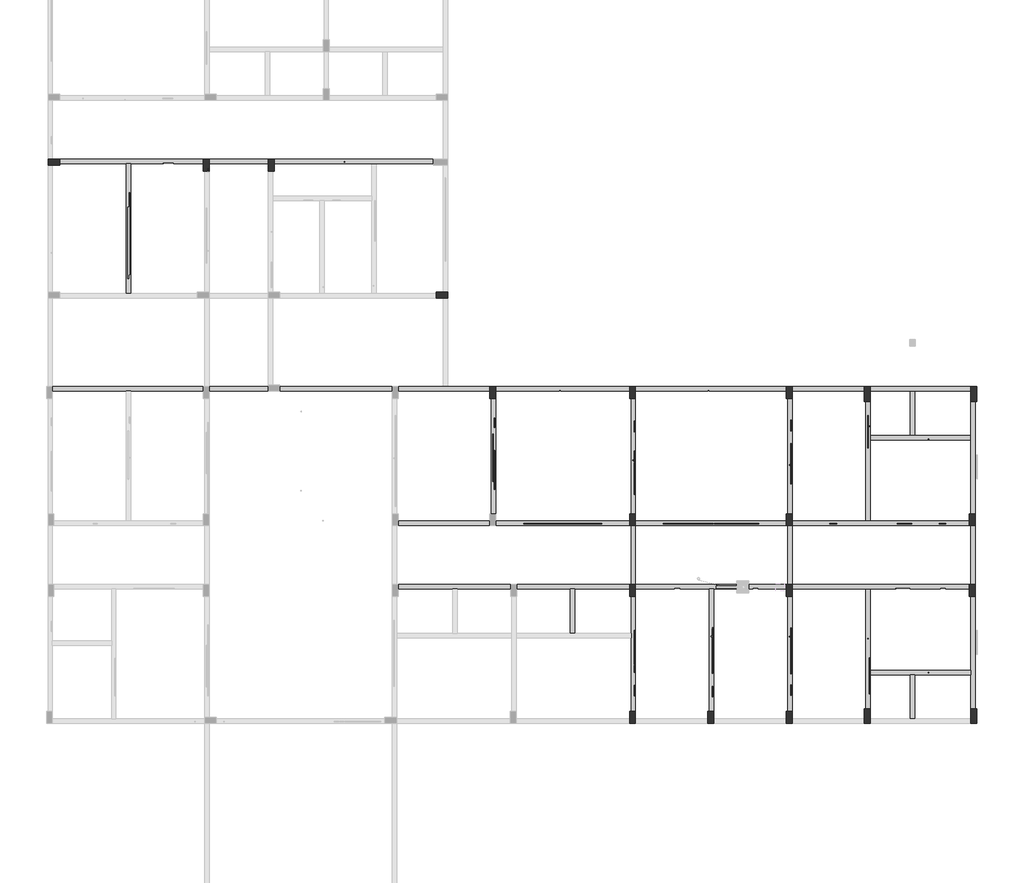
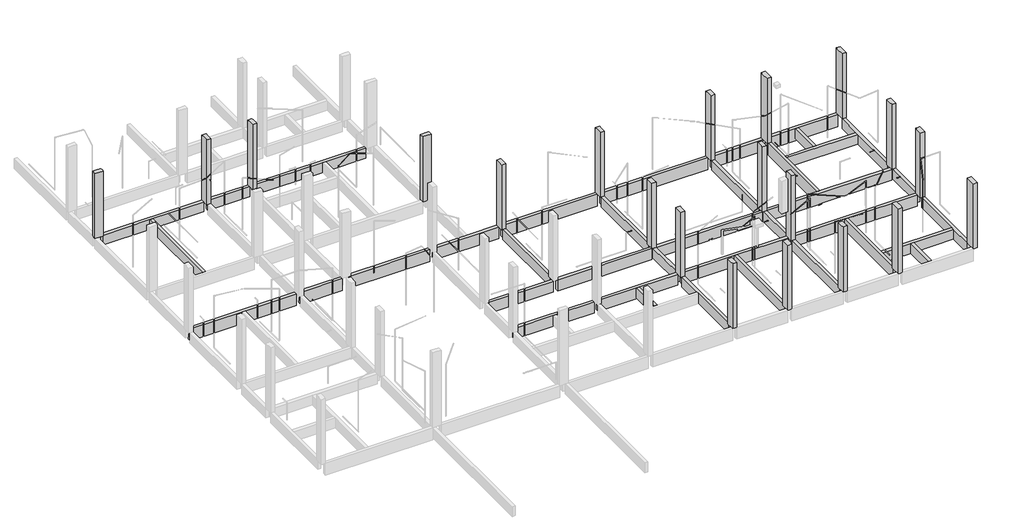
# One storey, part 2 of 4: 20 columns, 17 beams.
"""IFC4 building model written with IfcOpenShell, lengths in millimetres."""

from ifc_helpers import new_model, si_unit, frame, origin, place, context, project, spatial, polyline, outline, extrude, faceted_brep, element, save

model = new_model("IFC4")

# Units and contexts
model_context = context("Model", 3, world=origin())
ifc_project = project(units=[si_unit("LENGTHUNIT", "METRE", prefix="MILLI")], contexts=[model_context])

# Site, building, storey
site = spatial("IfcSite", under=ifc_project)
building = spatial("IfcBuilding", under=site)
storey = spatial("IfcBuildingStorey", under=building, Name="BALDRAME", Elevation=1500.0)

# Beams
placement = place(None, origin())
element("IfcBeam", 1, ObjectType="TQS - Viga retangular : 15,0 x 50,0", at=placement, inside=storey, context=model_context, shape_type="Brep", body=[
    faceted_brep([(7650.0, 19100.0, 1500.0), (7650.0, 18950.0, 1500.0), (10950.0, 18950.0, 1500.0), (11100.0, 18950.0, 1500.0), (13030.0, 18950.0, 1500.0), (13030.0, 19100.0, 1500.0), (7650.0, 18950.0, 1000.0), (10950.0, 18950.0, 1000.0), (11100.0, 18950.0, 1000.0), (13030.0, 18950.0, 1000.0), (7650.0, 19100.0, 1000.0), (13030.0, 19100.0, 1000.0)], [[[0, 1, 2, 3, 4, 5]], [[1, 6, 7, 8, 9, 4, 3, 2]], [[6, 10, 11, 9, 8, 7]], [[10, 0, 5, 11]], [[1, 0, 10, 6]], [[5, 4, 9, 11]]]),
    faceted_brep([(400.0, 18950.0, 1500.0), (400.0, 19100.0, 1500.0), (400.0, 19100.0, 1000.0), (400.0, 18950.0, 1000.0), (5250.0, 19100.0, 1500.0), (5250.0, 18950.0, 1500.0), (5250.0, 18950.0, 1000.0), (5250.0, 19100.0, 1000.0), (2650.0, 18950.0, 1500.0), (2800.0, 18950.0, 1500.0), (2650.0, 18950.0, 1000.0), (2800.0, 18950.0, 1000.0)], [[[0, 1, 2, 3]], [[4, 5, 6, 7]], [[1, 0, 8, 9, 5, 4]], [[0, 3, 10, 11, 6, 5, 9, 8]], [[3, 2, 7, 6, 11, 10]], [[2, 1, 4, 7]]]),
    faceted_brep([(5450.0, 18950.0, 1500.0), (5450.0, 19100.0, 1500.0), (5450.0, 19100.0, 1000.0), (5450.0, 18950.0, 1000.0), (7450.0, 19100.0, 1500.0), (7450.0, 18950.0, 1500.0), (7450.0, 18950.0, 1000.0), (7450.0, 19100.0, 1000.0)], [[[0, 1, 2, 3]], [[4, 5, 6, 7]], [[1, 0, 5, 4]], [[0, 3, 6, 5]], [[3, 2, 7, 6]], [[2, 1, 4, 7]]]),
])
element("IfcBeam", 2, ObjectType="TQS - Viga retangular : 15,0 x 50,0", at=placement, inside=storey, context=model_context, shape_type="Brep", body=[
    faceted_brep([(31380.0, 10900.0, 1500.0), (31230.0, 10900.0, 1500.0), (31230.0, 9750.0, 1500.0), (31230.0, 9600.0, 1500.0), (31230.0, 7100.0, 1500.0), (31380.0, 7100.0, 1500.0), (31380.0, 10900.0, 1000.0), (31380.0, 7100.0, 1000.0), (31230.0, 10900.0, 1000.0), (31230.0, 7100.0, 1000.0), (31230.0, 9600.0, 1000.0), (31230.0, 9750.0, 1000.0)], [[[0, 1, 2, 3, 4, 5]], [[6, 0, 5, 7]], [[8, 6, 7, 9, 10, 11]], [[1, 8, 11, 10, 9, 4, 3, 2]], [[1, 0, 6, 8]], [[5, 4, 9, 7]]]),
    faceted_brep([(31380.0, 500.0, 1500.0), (31230.0, 500.0, 1500.0), (31230.0, 500.0, 1000.0), (31380.0, 500.0, 1000.0), (31230.0, 4300.0, 1500.0), (31380.0, 4300.0, 1500.0), (31380.0, 4300.0, 1000.0), (31230.0, 4300.0, 1000.0), (31230.0, 1800.0, 1500.0), (31230.0, 1650.0, 1500.0), (31230.0, 1650.0, 1000.0), (31230.0, 1800.0, 1000.0)], [[[0, 1, 2, 3]], [[4, 5, 6, 7]], [[1, 0, 5, 4, 8, 9]], [[0, 3, 6, 5]], [[3, 2, 10, 11, 7, 6]], [[2, 1, 9, 8, 4, 7, 11, 10]]]),
    faceted_brep([(31380.0, 4700.0, 1500.0), (31230.0, 4700.0, 1500.0), (31230.0, 4700.0, 1000.0), (31380.0, 4700.0, 1000.0), (31230.0, 6700.0, 1500.0), (31380.0, 6700.0, 1500.0), (31380.0, 6700.0, 1000.0), (31230.0, 6700.0, 1000.0)], [[[0, 1, 2, 3]], [[4, 5, 6, 7]], [[1, 0, 5, 4]], [[0, 3, 6, 5]], [[3, 2, 7, 6]], [[2, 1, 4, 7]]]),
])
element("IfcBeam", 3, ObjectType="TQS - Viga retangular : 15,0 x 50,0", at=placement, inside=storey, context=model_context, shape_type="Brep", body=[
    faceted_brep([(19730.0, 400.0, 1500.0), (19880.0, 400.0, 1500.0), (19880.0, 4300.0, 1500.0), (19730.0, 4300.0, 1500.0), (19730.0, 3050.0, 1500.0), (19730.0, 2900.0, 1500.0), (19880.0, 400.0, 1000.0), (19880.0, 4300.0, 1000.0), (19730.0, 400.0, 1000.0), (19730.0, 2900.0, 1000.0), (19730.0, 3050.0, 1000.0), (19730.0, 4300.0, 1000.0)], [[[0, 1, 2, 3, 4, 5]], [[1, 6, 7, 2]], [[6, 8, 9, 10, 11, 7]], [[8, 0, 5, 4, 3, 11, 10, 9]], [[1, 0, 8, 6]], [[3, 2, 7, 11]]]),
    faceted_brep([(19730.0, 11000.0, 1500.0), (19880.0, 11000.0, 1500.0), (19880.0, 11000.0, 1000.0), (19730.0, 11000.0, 1000.0), (19730.0, 7100.0, 1500.0), (19880.0, 7100.0, 1500.0), (19880.0, 7100.0, 1000.0), (19730.0, 7100.0, 1000.0)], [[[0, 1, 2, 3]], [[1, 0, 4, 5]], [[2, 1, 5, 6]], [[3, 2, 6, 7]], [[0, 3, 7, 4]], [[5, 4, 7, 6]]]),
    faceted_brep([(19880.0, 4700.0, 1500.0), (19730.0, 4700.0, 1500.0), (19730.0, 4700.0, 1000.0), (19880.0, 4700.0, 1000.0), (19730.0, 6700.0, 1500.0), (19880.0, 6700.0, 1500.0), (19880.0, 6700.0, 1000.0), (19730.0, 6700.0, 1000.0)], [[[0, 1, 2, 3]], [[4, 5, 6, 7]], [[1, 0, 5, 4]], [[0, 3, 6, 5]], [[3, 2, 7, 6]], [[2, 1, 4, 7]]]),
])
element("IfcBeam", 4, ObjectType="TQS - Viga retangular : 15,0 x 50,0", at=placement, inside=storey, context=model_context, shape_type="SweptSolid", body=[
    extrude(outline(polyline([(22530.0, 400.0), (22380.0, 400.0), (22380.0, 4550.0), (22530.0, 4550.0), (22530.0, 400.0)])), frame((0.0, 0.0, 1000.0), z_axis=(0.0, 0.0, 1.0), x_axis=(1.0, 0.0, 0.0)), (0.0, 0.0, 1.0), 500.0),
])
element("IfcBeam", 5, ObjectType="TQS - Viga retangular : 15,0 x 50,0", at=placement, inside=storey, context=model_context, shape_type="SweptSolid", body=[
    extrude(outline(polyline([(25180.0, 400.0), (25030.0, 400.0), (25030.0, 4300.0), (25180.0, 4300.0), (25180.0, 400.0)])), frame((0.0, 0.0, 1000.0), z_axis=(0.0, 0.0, 1.0), x_axis=(1.0, 0.0, 0.0)), (0.0, 0.0, 1.0), 500.0),
    extrude(outline(polyline([(25030.0, 11000.0), (25180.0, 11000.0), (25180.0, 7100.0), (25030.0, 7100.0), (25030.0, 11000.0)])), frame((0.0, 0.0, 1000.0), z_axis=(0.0, 0.0, 1.0), x_axis=(1.0, 0.0, 0.0)), (0.0, 0.0, 1.0), 500.0),
    extrude(outline(polyline([(25180.0, 4700.0), (25030.0, 4700.0), (25030.0, 6700.0), (25180.0, 6700.0), (25180.0, 4700.0)])), frame((0.0, 0.0, 1000.0), z_axis=(0.0, 0.0, 1.0), x_axis=(1.0, 0.0, 0.0)), (0.0, 0.0, 1.0), 500.0),
])
element("IfcBeam", 6, ObjectType="TQS - Viga retangular : 15,0 x 50,0", at=placement, inside=storey, context=model_context, shape_type="SweptSolid", body=[
    extrude(outline(polyline([(15000.0, 11000.0), (15150.0, 11000.0), (15150.0, 7100.0), (15000.0, 7100.0), (15000.0, 11000.0)])), frame((0.0, 0.0, 1000.0), z_axis=(0.0, 0.0, 1.0), x_axis=(1.0, 0.0, 0.0)), (0.0, 0.0, 1.0), 500.0),
])
element("IfcBeam", 7, ObjectType="TQS - Viga retangular : 15,0 x 50,0", at=placement, inside=storey, context=model_context, shape_type="SweptSolid", body=[
    extrude(outline(polyline([(17680.0, 4550.0), (17830.0, 4550.0), (17830.0, 3050.0), (17680.0, 3050.0), (17680.0, 4550.0)])), frame((0.0, 0.0, 1000.0), z_axis=(0.0, 0.0, 1.0), x_axis=(1.0, 0.0, 0.0)), (0.0, 0.0, 1.0), 500.0),
])
element("IfcBeam", 8, ObjectType="TQS - Viga retangular : 15,0 x 50,0", at=placement, inside=storey, context=model_context, shape_type="SweptSolid", body=[
    extrude(outline(polyline([(29330.0, 150.0), (29180.0, 150.0), (29180.0, 1650.0), (29330.0, 1650.0), (29330.0, 150.0)])), frame((0.0, 0.0, 1000.0), z_axis=(0.0, 0.0, 1.0), x_axis=(1.0, 0.0, 0.0)), (0.0, 0.0, 1.0), 500.0),
])
element("IfcBeam", 9, ObjectType="TQS - Viga retangular : 15,0 x 50,0", at=placement, inside=storey, context=model_context, shape_type="Brep", body=[
    faceted_brep([(31230.0, 1650.0, 1500.0), (31230.0, 1800.0, 1500.0), (27830.0, 1800.0, 1500.0), (27830.0, 1650.0, 1500.0), (29180.0, 1650.0, 1500.0), (29330.0, 1650.0, 1500.0), (31230.0, 1650.0, 1000.0), (27830.0, 1650.0, 1000.0), (29180.0, 1650.0, 1000.0), (29330.0, 1650.0, 1000.0), (31230.0, 1800.0, 1000.0), (27830.0, 1800.0, 1000.0)], [[[0, 1, 2, 3, 4, 5]], [[6, 0, 5, 4, 3, 7, 8, 9]], [[10, 6, 9, 8, 7, 11]], [[1, 10, 11, 2]], [[1, 0, 6, 10]], [[3, 2, 11, 7]]]),
])
element("IfcBeam", 10, ObjectType="TQS - Viga retangular : 15,0 x 50,0", at=placement, inside=storey, context=model_context, shape_type="SweptSolid", body=[
    extrude(outline(polyline([(2650.0, 18950.0), (2800.0, 18950.0), (2800.0, 14550.0), (2650.0, 14550.0), (2650.0, 18950.0)])), frame((0.0, 0.0, 1000.0), z_axis=(0.0, 0.0, 1.0), x_axis=(1.0, 0.0, 0.0)), (0.0, 0.0, 1.0), 500.0),
])
element("IfcBeam", 11, ObjectType="TQS - Viga retangular : 15,0 x 50,0", at=placement, inside=storey, context=model_context, shape_type="Brep", body=[
    faceted_brep([(31230.0, 9600.0, 1500.0), (31230.0, 9750.0, 1500.0), (29330.0, 9750.0, 1500.0), (29180.0, 9750.0, 1500.0), (27830.0, 9750.0, 1500.0), (27830.0, 9600.0, 1500.0), (31230.0, 9600.0, 1000.0), (27830.0, 9600.0, 1000.0), (31230.0, 9750.0, 1000.0), (27830.0, 9750.0, 1000.0), (29180.0, 9750.0, 1000.0), (29330.0, 9750.0, 1000.0)], [[[0, 1, 2, 3, 4, 5]], [[6, 0, 5, 7]], [[8, 6, 7, 9, 10, 11]], [[1, 8, 11, 10, 9, 4, 3, 2]], [[1, 0, 6, 8]], [[5, 4, 9, 7]]]),
])
element("IfcBeam", 12, ObjectType="TQS - Viga retangular : 15,0 x 50,0", at=placement, inside=storey, context=model_context, shape_type="SweptSolid", body=[
    extrude(outline(polyline([(29180.0, 11250.0), (29330.0, 11250.0), (29330.0, 9750.0), (29180.0, 9750.0), (29180.0, 11250.0)])), frame((0.0, 0.0, 1000.0), z_axis=(0.0, 0.0, 1.0), x_axis=(1.0, 0.0, 0.0)), (0.0, 0.0, 1.0), 500.0),
])
element("IfcBeam", 13, ObjectType="TQS - Viga retangular : 15,0 x 55,0", at=placement, inside=storey, context=model_context, shape_type="Brep", body=[
    faceted_brep([(31180.0, 4550.0, 1500.0), (31180.0, 4700.0, 1500.0), (25180.0, 4700.0, 1500.0), (25180.0, 4550.0, 1500.0), (27680.0, 4550.0, 1500.0), (27830.0, 4550.0, 1500.0), (31180.0, 4550.0, 950.0), (25180.0, 4550.0, 950.0), (27680.0, 4550.0, 950.0), (27830.0, 4550.0, 950.0), (31180.0, 4700.0, 950.0), (25180.0, 4700.0, 950.0)], [[[0, 1, 2, 3, 4, 5]], [[6, 0, 5, 4, 3, 7, 8, 9]], [[10, 6, 9, 8, 7, 11]], [[1, 10, 11, 2]], [[1, 0, 6, 10]], [[3, 2, 11, 7]]]),
    faceted_brep([(11850.0, 4550.0, 1500.0), (11850.0, 4700.0, 1500.0), (11850.0, 4700.0, 950.0), (11850.0, 4550.0, 950.0), (15665.0, 4700.0, 1500.0), (15665.0, 4550.0, 1500.0), (15665.0, 4550.0, 950.0), (15665.0, 4700.0, 950.0), (13700.0, 4550.0, 1500.0), (13850.0, 4550.0, 1500.0)], [[[0, 1, 2, 3]], [[4, 5, 6, 7]], [[1, 0, 8, 9, 5, 4]], [[0, 3, 6, 5, 9, 8]], [[3, 2, 7, 6]], [[2, 1, 4, 7]]]),
    faceted_brep([(15865.0, 4550.0, 1500.0), (15865.0, 4700.0, 1500.0), (15865.0, 4700.0, 950.0), (15865.0, 4550.0, 950.0), (19680.0, 4700.0, 1500.0), (19680.0, 4550.0, 1500.0), (19680.0, 4550.0, 950.0), (19680.0, 4700.0, 950.0), (17680.0, 4550.0, 1500.0), (17830.0, 4550.0, 1500.0)], [[[0, 1, 2, 3]], [[4, 5, 6, 7]], [[1, 0, 8, 9, 5, 4]], [[0, 3, 6, 5, 9, 8]], [[3, 2, 7, 6]], [[2, 1, 4, 7]]]),
    faceted_brep([(19880.0, 4550.0, 1500.0), (19880.0, 4700.0, 1500.0), (19880.0, 4700.0, 950.0), (19880.0, 4550.0, 950.0), (24980.0, 4700.0, 1500.0), (24980.0, 4550.0, 1500.0), (24980.0, 4550.0, 950.0), (24980.0, 4700.0, 950.0), (22380.0, 4550.0, 1500.0), (22530.0, 4550.0, 1500.0)], [[[0, 1, 2, 3]], [[4, 5, 6, 7]], [[1, 0, 8, 9, 5, 4]], [[0, 3, 6, 5, 9, 8]], [[3, 2, 7, 6]], [[2, 1, 4, 7]]]),
])
element("IfcBeam", 14, ObjectType="TQS - Viga retangular : 15,0 x 55,0", at=placement, inside=storey, context=model_context, shape_type="Brep", body=[
    faceted_brep([(31180.0, 6700.0, 1500.0), (31180.0, 6850.0, 1500.0), (27830.0, 6850.0, 1500.0), (27680.0, 6850.0, 1500.0), (25180.0, 6850.0, 1500.0), (25180.0, 6700.0, 1500.0), (31180.0, 6700.0, 950.0), (25180.0, 6700.0, 950.0), (27680.0, 6700.0, 950.0), (27830.0, 6700.0, 950.0), (31180.0, 6850.0, 950.0), (25180.0, 6850.0, 950.0), (27680.0, 6850.0, 950.0), (27830.0, 6850.0, 950.0)], [[[0, 1, 2, 3, 4, 5]], [[6, 0, 5, 7, 8, 9]], [[10, 6, 9, 8, 7, 11, 12, 13]], [[1, 10, 13, 12, 11, 4, 3, 2]], [[1, 0, 6, 10]], [[5, 4, 11, 7]]]),
    faceted_brep([(11850.0, 6700.0, 1500.0), (11850.0, 6850.0, 1500.0), (11850.0, 6850.0, 950.0), (11850.0, 6700.0, 950.0), (14950.0, 6850.0, 1500.0), (14950.0, 6700.0, 1500.0), (14950.0, 6700.0, 950.0), (14950.0, 6850.0, 950.0)], [[[0, 1, 2, 3]], [[4, 5, 6, 7]], [[1, 0, 5, 4]], [[0, 3, 6, 5]], [[3, 2, 7, 6]], [[2, 1, 4, 7]]]),
    faceted_brep([(24980.0, 6850.0, 1500.0), (24980.0, 6700.0, 1500.0), (24980.0, 6700.0, 950.0), (24980.0, 6850.0, 950.0), (19880.0, 6850.0, 1500.0), (19880.0, 6700.0, 1500.0), (19880.0, 6700.0, 950.0), (19880.0, 6850.0, 950.0)], [[[0, 1, 2, 3]], [[1, 0, 4, 5]], [[2, 1, 5, 6]], [[3, 2, 6, 7]], [[0, 3, 7, 4]], [[5, 4, 7, 6]]]),
    faceted_brep([(19680.0, 6850.0, 1500.0), (19680.0, 6700.0, 1500.0), (19680.0, 6700.0, 950.0), (19680.0, 6850.0, 950.0), (15150.0, 6850.0, 1500.0), (15150.0, 6700.0, 1500.0), (15150.0, 6700.0, 950.0), (15150.0, 6850.0, 950.0)], [[[0, 1, 2, 3]], [[1, 0, 4, 5]], [[2, 1, 5, 6]], [[3, 2, 6, 7]], [[0, 3, 7, 4]], [[5, 4, 7, 6]]]),
])
element("IfcBeam", 15, ObjectType="TQS - Viga retangular : 15,0 x 55,0", at=placement, inside=storey, context=model_context, shape_type="Brep", body=[
    faceted_brep([(27680.0, 500.0, 1500.0), (27830.0, 500.0, 1500.0), (27830.0, 1650.0, 1500.0), (27830.0, 1800.0, 1500.0), (27830.0, 4550.0, 1500.0), (27680.0, 4550.0, 1500.0), (27830.0, 500.0, 950.0), (27830.0, 4550.0, 950.0), (27680.0, 500.0, 950.0), (27680.0, 4550.0, 950.0)], [[[0, 1, 2, 3, 4, 5]], [[1, 6, 7, 4, 3, 2]], [[6, 8, 9, 7]], [[8, 0, 5, 9]], [[1, 0, 8, 6]], [[5, 4, 7, 9]]]),
])
element("IfcBeam", 16, ObjectType="TQS - Viga retangular : 15,0 x 60,0", at=placement, inside=storey, context=model_context, shape_type="Brep", body=[
    faceted_brep([(31230.0, 11250.0, 1500.0), (31230.0, 11400.0, 1500.0), (27830.0, 11400.0, 1500.0), (27830.0, 11250.0, 1500.0), (29180.0, 11250.0, 1500.0), (29330.0, 11250.0, 1500.0), (31230.0, 11250.0, 900.0), (27830.0, 11250.0, 900.0), (31230.0, 11400.0, 900.0), (27830.0, 11400.0, 900.0)], [[[0, 1, 2, 3, 4, 5]], [[6, 0, 5, 4, 3, 7]], [[8, 6, 7, 9]], [[1, 8, 9, 2]], [[1, 0, 6, 8]], [[3, 2, 9, 7]]]),
    faceted_brep([(27630.0, 11400.0, 1500.0), (27630.0, 11250.0, 1500.0), (27630.0, 11250.0, 900.0), (27630.0, 11400.0, 900.0), (25180.0, 11400.0, 1500.0), (25180.0, 11250.0, 1500.0), (25180.0, 11250.0, 900.0), (25180.0, 11400.0, 900.0)], [[[0, 1, 2, 3]], [[1, 0, 4, 5]], [[2, 1, 5, 6]], [[3, 2, 6, 7]], [[0, 3, 7, 4]], [[5, 4, 7, 6]]]),
    faceted_brep([(24980.0, 11400.0, 1500.0), (24980.0, 11250.0, 1500.0), (24980.0, 11250.0, 900.0), (24980.0, 11400.0, 900.0), (19880.0, 11400.0, 1500.0), (19880.0, 11250.0, 1500.0), (19880.0, 11250.0, 900.0), (19880.0, 11400.0, 900.0)], [[[0, 1, 2, 3]], [[1, 0, 4, 5]], [[2, 1, 5, 6]], [[3, 2, 6, 7]], [[0, 3, 7, 4]], [[5, 4, 7, 6]]]),
    faceted_brep([(19680.0, 11400.0, 1500.0), (19680.0, 11250.0, 1500.0), (19680.0, 11250.0, 900.0), (19680.0, 11400.0, 900.0), (15150.0, 11400.0, 1500.0), (15150.0, 11250.0, 1500.0), (15150.0, 11250.0, 900.0), (15150.0, 11400.0, 900.0)], [[[0, 1, 2, 3]], [[1, 0, 4, 5]], [[2, 1, 5, 6]], [[3, 2, 6, 7]], [[0, 3, 7, 4]], [[5, 4, 7, 6]]]),
    faceted_brep([(14950.0, 11400.0, 1500.0), (14950.0, 11250.0, 1500.0), (14950.0, 11250.0, 900.0), (14950.0, 11400.0, 900.0), (13530.0, 11400.0, 1500.0), (13380.0, 11400.0, 1500.0), (11850.0, 11400.0, 1500.0), (11850.0, 11250.0, 1500.0), (11850.0, 11250.0, 900.0), (11850.0, 11400.0, 900.0)], [[[0, 1, 2, 3]], [[1, 0, 4, 5, 6, 7]], [[2, 1, 7, 8]], [[3, 2, 8, 9]], [[0, 3, 9, 6, 5, 4]], [[7, 6, 9, 8]]]),
    faceted_brep([(11650.0, 11400.0, 1500.0), (11650.0, 11250.0, 1500.0), (11650.0, 11250.0, 900.0), (11650.0, 11400.0, 900.0), (7850.0, 11400.0, 1500.0), (7850.0, 11250.0, 1500.0), (7850.0, 11250.0, 900.0), (7850.0, 11400.0, 900.0)], [[[0, 1, 2, 3]], [[1, 0, 4, 5]], [[2, 1, 5, 6]], [[3, 2, 6, 7]], [[0, 3, 7, 4]], [[5, 4, 7, 6]]]),
    faceted_brep([(150.0, 11250.0, 1500.0), (150.0, 11400.0, 1500.0), (150.0, 11400.0, 900.0), (150.0, 11250.0, 900.0), (5250.0, 11400.0, 1500.0), (5250.0, 11250.0, 1500.0), (5250.0, 11250.0, 900.0), (5250.0, 11400.0, 900.0), (2650.0, 11250.0, 1500.0), (2800.0, 11250.0, 1500.0)], [[[0, 1, 2, 3]], [[4, 5, 6, 7]], [[1, 0, 8, 9, 5, 4]], [[0, 3, 6, 5, 9, 8]], [[3, 2, 7, 6]], [[2, 1, 4, 7]]]),
    faceted_brep([(5450.0, 11250.0, 1500.0), (5450.0, 11400.0, 1500.0), (5450.0, 11400.0, 900.0), (5450.0, 11250.0, 900.0), (7450.0, 11400.0, 1500.0), (7450.0, 11250.0, 1500.0), (7450.0, 11250.0, 900.0), (7450.0, 11400.0, 900.0)], [[[0, 1, 2, 3]], [[4, 5, 6, 7]], [[1, 0, 5, 4]], [[0, 3, 6, 5]], [[3, 2, 7, 6]], [[2, 1, 4, 7]]]),
])
element("IfcBeam", 17, ObjectType="TQS - Viga retangular : 15,0 x 60,0", at=placement, inside=storey, context=model_context, shape_type="Brep", body=[
    faceted_brep([(27830.0, 10900.0, 1500.0), (27680.0, 10900.0, 1500.0), (27680.0, 6850.0, 1500.0), (27830.0, 6850.0, 1500.0), (27830.0, 9600.0, 1500.0), (27830.0, 9750.0, 1500.0), (27830.0, 10900.0, 900.0), (27830.0, 6850.0, 950.0), (27830.0, 6700.0, 950.0), (27830.0, 6700.0, 900.0), (27680.0, 10900.0, 900.0), (27680.0, 6700.0, 900.0), (27680.0, 6700.0, 950.0), (27680.0, 6850.0, 950.0)], [[[0, 1, 2, 3, 4, 5]], [[6, 0, 5, 4, 3, 7, 8, 9]], [[10, 6, 9, 11]], [[1, 10, 11, 12, 13, 2]], [[1, 0, 6, 10]], [[7, 13, 12, 8]], [[13, 7, 3, 2]], [[11, 9, 8, 12]]]),
])

# Columns
element("IfcColumn", 18, ObjectType="TQS - Pilar retangular : 20,0x40,0", at=placement, inside=storey, context=model_context, shape_type="Brep", body=[
    faceted_brep([(25180.0, 400.0, 1500.0), (25180.0, 0.0, 1500.0), (24980.0, 0.0, 1500.0), (24980.0, 400.0, 1500.0), (25180.0, 400.0, 4300.0), (25180.0, 400.0, 4800.0), (25180.0, 150.0, 4800.0), (25180.0, 0.0, 4800.0), (25180.0, 0.0, 4250.0), (24980.0, 0.0, 4800.0), (24980.0, 0.0, 4250.0), (24980.0, 150.0, 4800.0), (24980.0, 400.0, 4800.0), (24980.0, 400.0, 4750.0), (25030.0, 400.0, 4800.0)], [[[0, 1, 2, 3]], [[1, 0, 4, 5, 6, 7, 8]], [[2, 1, 8, 7, 9, 10]], [[3, 2, 10, 9, 11, 12, 13]], [[0, 3, 13, 12, 14, 5, 4]], [[7, 6, 5, 14, 12, 11, 9]]]),
])
element("IfcColumn", 19, ObjectType="TQS - Pilar retangular : 20,0x40,0", at=placement, inside=storey, context=model_context, shape_type="Brep", body=[
    faceted_brep([(22530.0, 400.0, 1500.0), (22530.0, 0.0, 1500.0), (22330.0, 0.0, 1500.0), (22330.0, 400.0, 1500.0), (22530.0, 400.0, 4200.0), (22530.0, 400.0, 4800.0), (22530.0, 150.0, 4800.0), (22530.0, 0.0, 4800.0), (22530.0, 0.0, 4250.0), (22330.0, 0.0, 4800.0), (22330.0, 0.0, 4250.0), (22330.0, 150.0, 4800.0), (22330.0, 400.0, 4800.0), (22330.0, 400.0, 4750.0), (22380.0, 400.0, 4800.0)], [[[0, 1, 2, 3]], [[1, 0, 4, 5, 6, 7, 8]], [[2, 1, 8, 7, 9, 10]], [[3, 2, 10, 9, 11, 12, 13]], [[0, 3, 13, 12, 14, 5, 4]], [[7, 6, 5, 14, 12, 11, 9]]]),
])
element("IfcColumn", 20, ObjectType="TQS - Pilar retangular : 20,0x40,0", at=placement, inside=storey, context=model_context, shape_type="Brep", body=[
    faceted_brep([(19880.0, 400.0, 1500.0), (19880.0, 0.0, 1500.0), (19680.0, 0.0, 1500.0), (19680.0, 400.0, 1500.0), (19880.0, 400.0, 4250.0), (19880.0, 400.0, 4800.0), (19880.0, 150.0, 4800.0), (19880.0, 0.0, 4800.0), (19880.0, 0.0, 4250.0), (19680.0, 0.0, 4800.0), (19680.0, 0.0, 4250.0), (19680.0, 150.0, 4800.0), (19680.0, 400.0, 4800.0), (19680.0, 400.0, 4750.0), (19680.0, 400.0, 4650.0), (19730.0, 400.0, 4800.0)], [[[0, 1, 2, 3]], [[1, 0, 4, 5, 6, 7, 8]], [[2, 1, 8, 7, 9, 10]], [[3, 2, 10, 9, 11, 12, 13, 14]], [[0, 3, 14, 13, 12, 15, 5, 4]], [[7, 6, 5, 15, 12, 11, 9]]]),
])
element("IfcColumn", 21, ObjectType="TQS - Pilar retangular : 20,0x40,0", at=placement, inside=storey, context=model_context, shape_type="Brep", body=[
    faceted_brep([(31380.0, 4700.0, 1500.0), (31380.0, 4300.0, 1500.0), (31180.0, 4300.0, 1500.0), (31180.0, 4700.0, 1500.0), (31380.0, 4700.0, 4200.0), (31380.0, 4700.0, 4800.0), (31380.0, 4300.0, 4800.0), (31380.0, 4300.0, 4200.0), (31230.0, 4300.0, 4800.0), (31180.0, 4300.0, 4800.0), (31180.0, 4300.0, 4750.0), (31180.0, 4300.0, 4650.0), (31180.0, 4550.0, 4800.0), (31180.0, 4700.0, 4800.0), (31180.0, 4700.0, 4200.0), (31230.0, 4700.0, 4800.0)], [[[0, 1, 2, 3]], [[1, 0, 4, 5, 6, 7]], [[2, 1, 7, 6, 8, 9, 10, 11]], [[3, 2, 11, 10, 9, 12, 13, 14]], [[0, 3, 14, 13, 15, 5, 4]], [[6, 5, 15, 13, 12, 9, 8]]]),
])
element("IfcColumn", 22, ObjectType="TQS - Pilar retangular : 20,0x40,0", at=placement, inside=storey, context=model_context, shape_type="Brep", body=[
    faceted_brep([(31380.0, 7100.0, 1500.0), (31380.0, 6700.0, 1500.0), (31180.0, 6700.0, 1500.0), (31180.0, 7100.0, 1500.0), (31380.0, 7100.0, 4200.0), (31380.0, 7100.0, 4800.0), (31380.0, 6700.0, 4800.0), (31380.0, 6700.0, 4200.0), (31230.0, 6700.0, 4800.0), (31180.0, 6700.0, 4800.0), (31180.0, 6700.0, 4200.0), (31180.0, 6850.0, 4800.0), (31180.0, 7100.0, 4800.0), (31180.0, 7100.0, 4750.0), (31180.0, 7100.0, 4650.0), (31230.0, 7100.0, 4800.0)], [[[0, 1, 2, 3]], [[1, 0, 4, 5, 6, 7]], [[2, 1, 7, 6, 8, 9, 10]], [[3, 2, 10, 9, 11, 12, 13, 14]], [[0, 3, 14, 13, 12, 15, 5, 4]], [[6, 5, 15, 12, 11, 9, 8]]]),
])
element("IfcColumn", 23, ObjectType="TQS - Pilar retangular : 20,0x40,0", at=placement, inside=storey, context=model_context, shape_type="Brep", body=[
    faceted_brep([(25180.0, 11400.0, 1500.0), (25180.0, 11000.0, 1500.0), (24980.0, 11000.0, 1500.0), (24980.0, 11400.0, 1500.0), (25180.0, 11400.0, 4250.0), (25180.0, 11400.0, 4800.0), (25180.0, 11250.0, 4800.0), (25180.0, 11000.0, 4800.0), (25180.0, 11000.0, 4300.0), (25030.0, 11000.0, 4800.0), (24980.0, 11000.0, 4800.0), (24980.0, 11000.0, 4750.0), (24980.0, 11000.0, 4650.0), (24980.0, 11250.0, 4800.0), (24980.0, 11400.0, 4800.0), (24980.0, 11400.0, 4250.0)], [[[0, 1, 2, 3]], [[1, 0, 4, 5, 6, 7, 8]], [[2, 1, 8, 7, 9, 10, 11, 12]], [[3, 2, 12, 11, 10, 13, 14, 15]], [[0, 3, 15, 14, 5, 4]], [[7, 6, 5, 14, 13, 10, 9]]]),
])
element("IfcColumn", 24, ObjectType="TQS - Pilar retangular : 20,0x40,0", at=placement, inside=storey, context=model_context, shape_type="Brep", body=[
    faceted_brep([(19880.0, 11400.0, 1500.0), (19880.0, 11000.0, 1500.0), (19680.0, 11000.0, 1500.0), (19680.0, 11400.0, 1500.0), (19880.0, 11400.0, 4250.0), (19880.0, 11400.0, 4800.0), (19880.0, 11250.0, 4800.0), (19880.0, 11000.0, 4800.0), (19880.0, 11000.0, 4250.0), (19730.0, 11000.0, 4800.0), (19680.0, 11000.0, 4800.0), (19680.0, 11000.0, 4750.0), (19680.0, 11000.0, 4650.0), (19680.0, 11250.0, 4800.0), (19680.0, 11400.0, 4800.0), (19680.0, 11400.0, 4250.0)], [[[0, 1, 2, 3]], [[1, 0, 4, 5, 6, 7, 8]], [[2, 1, 8, 7, 9, 10, 11, 12]], [[3, 2, 12, 11, 10, 13, 14, 15]], [[0, 3, 15, 14, 5, 4]], [[7, 6, 5, 14, 13, 10, 9]]]),
])
element("IfcColumn", 25, ObjectType="TQS - Pilar retangular : 20,0x40,0", at=placement, inside=storey, context=model_context, shape_type="Brep", body=[
    faceted_brep([(15150.0, 11400.0, 1500.0), (15150.0, 11000.0, 1500.0), (14950.0, 11000.0, 1500.0), (14950.0, 11400.0, 1500.0), (15150.0, 11400.0, 4250.0), (15150.0, 11400.0, 4800.0), (15150.0, 11250.0, 4800.0), (15150.0, 11000.0, 4800.0), (15150.0, 11000.0, 4300.0), (15000.0, 11000.0, 4800.0), (14950.0, 11000.0, 4800.0), (14950.0, 11000.0, 4750.0), (14950.0, 11000.0, 4650.0), (14950.0, 11250.0, 4800.0), (14950.0, 11400.0, 4800.0), (14950.0, 11400.0, 4250.0)], [[[0, 1, 2, 3]], [[1, 0, 4, 5, 6, 7, 8]], [[2, 1, 8, 7, 9, 10, 11, 12]], [[3, 2, 12, 11, 10, 13, 14, 15]], [[0, 3, 15, 14, 5, 4]], [[7, 6, 5, 14, 13, 10, 9]]]),
])
element("IfcColumn", 26, ObjectType="TQS - Pilar retangular : 20,0x40,0", at=placement, inside=storey, context=model_context, shape_type="Brep", body=[
    faceted_brep([(19880.0, 4700.0, 1500.0), (19880.0, 4300.0, 1500.0), (19680.0, 4300.0, 1500.0), (19680.0, 4700.0, 1500.0), (19880.0, 4700.0, 4200.0), (19880.0, 4700.0, 4250.0), (19880.0, 4700.0, 4800.0), (19880.0, 4550.0, 4800.0), (19880.0, 4300.0, 4800.0), (19880.0, 4300.0, 4250.0), (19730.0, 4300.0, 4800.0), (19680.0, 4300.0, 4800.0), (19680.0, 4300.0, 4750.0), (19680.0, 4300.0, 4650.0), (19680.0, 4550.0, 4800.0), (19680.0, 4700.0, 4800.0), (19680.0, 4700.0, 4200.0), (19730.0, 4700.0, 4800.0)], [[[0, 1, 2, 3]], [[1, 0, 4, 5, 6, 7, 8, 9]], [[2, 1, 9, 8, 10, 11, 12, 13]], [[3, 2, 13, 12, 11, 14, 15, 16]], [[0, 3, 16, 15, 17, 6, 5, 4]], [[8, 7, 6, 17, 15, 14, 11, 10]]]),
])
element("IfcColumn", 27, ObjectType="TQS - Pilar retangular : 20,0x40,0", at=placement, inside=storey, context=model_context, shape_type="Brep", body=[
    faceted_brep([(25180.0, 4700.0, 1500.0), (25180.0, 4300.0, 1500.0), (24980.0, 4300.0, 1500.0), (24980.0, 4700.0, 1500.0), (25180.0, 4700.0, 4200.0), (25180.0, 4700.0, 4300.0), (25180.0, 4700.0, 4800.0), (25180.0, 4550.0, 4800.0), (25180.0, 4300.0, 4800.0), (25180.0, 4300.0, 4300.0), (25030.0, 4300.0, 4800.0), (24980.0, 4300.0, 4800.0), (24980.0, 4300.0, 4750.0), (24980.0, 4550.0, 4800.0), (24980.0, 4700.0, 4800.0), (24980.0, 4700.0, 4200.0), (25030.0, 4700.0, 4800.0)], [[[0, 1, 2, 3]], [[1, 0, 4, 5, 6, 7, 8, 9]], [[2, 1, 9, 8, 10, 11, 12]], [[3, 2, 12, 11, 13, 14, 15]], [[0, 3, 15, 14, 16, 6, 5, 4]], [[8, 7, 6, 16, 14, 13, 11, 10]]]),
])
element("IfcColumn", 28, ObjectType="TQS - Pilar retangular : 20,0x40,0", at=placement, inside=storey, context=model_context, shape_type="Brep", body=[
    faceted_brep([(25180.0, 7100.0, 1500.0), (25180.0, 6700.0, 1500.0), (24980.0, 6700.0, 1500.0), (24980.0, 7100.0, 1500.0), (25180.0, 7100.0, 4300.0), (25180.0, 7100.0, 4800.0), (25180.0, 6850.0, 4800.0), (25180.0, 6700.0, 4800.0), (25180.0, 6700.0, 4300.0), (25180.0, 6700.0, 4200.0), (25030.0, 6700.0, 4800.0), (24980.0, 6700.0, 4800.0), (24980.0, 6700.0, 4200.0), (24980.0, 6850.0, 4800.0), (24980.0, 7100.0, 4800.0), (24980.0, 7100.0, 4750.0), (24980.0, 7100.0, 4650.0), (25030.0, 7100.0, 4800.0)], [[[0, 1, 2, 3]], [[1, 0, 4, 5, 6, 7, 8, 9]], [[2, 1, 9, 8, 7, 10, 11, 12]], [[3, 2, 12, 11, 13, 14, 15, 16]], [[0, 3, 16, 15, 14, 17, 5, 4]], [[7, 6, 5, 17, 14, 13, 11, 10]]]),
])
element("IfcColumn", 29, ObjectType="TQS - Pilar retangular : 20,0x40,0", at=placement, inside=storey, context=model_context, shape_type="Brep", body=[
    faceted_brep([(19880.0, 7100.0, 1500.0), (19880.0, 6700.0, 1500.0), (19680.0, 6700.0, 1500.0), (19680.0, 7100.0, 1500.0), (19880.0, 7100.0, 4250.0), (19880.0, 7100.0, 4800.0), (19880.0, 6850.0, 4800.0), (19880.0, 6700.0, 4800.0), (19880.0, 6700.0, 4250.0), (19880.0, 6700.0, 4200.0), (19730.0, 6700.0, 4800.0), (19680.0, 6700.0, 4800.0), (19680.0, 6700.0, 4200.0), (19680.0, 6850.0, 4800.0), (19680.0, 7100.0, 4800.0), (19680.0, 7100.0, 4750.0), (19680.0, 7100.0, 4650.0), (19730.0, 7100.0, 4800.0)], [[[0, 1, 2, 3]], [[1, 0, 4, 5, 6, 7, 8, 9]], [[2, 1, 9, 8, 7, 10, 11, 12]], [[3, 2, 12, 11, 13, 14, 15, 16]], [[0, 3, 16, 15, 14, 17, 5, 4]], [[7, 6, 5, 17, 14, 13, 11, 10]]]),
])
element("IfcColumn", 30, ObjectType="TQS - Pilar retangular : 20,0x40,0", at=placement, inside=storey, context=model_context, shape_type="Brep", body=[
    faceted_brep([(400.0, 18900.0, 1500.0), (0.0, 18900.0, 1500.0), (0.0, 19100.0, 1500.0), (400.0, 19100.0, 1500.0), (400.0, 18900.0, 4650.0), (400.0, 18900.0, 4750.0), (400.0, 18900.0, 4800.0), (150.0, 18900.0, 4800.0), (0.0, 18900.0, 4800.0), (0.0, 18900.0, 4600.0), (0.0, 18900.0, 4250.0), (0.0, 19100.0, 4800.0), (0.0, 19100.0, 4250.0), (150.0, 19100.0, 4800.0), (400.0, 19100.0, 4800.0), (400.0, 19100.0, 4250.0), (400.0, 18950.0, 4800.0)], [[[0, 1, 2, 3]], [[1, 0, 4, 5, 6, 7, 8, 9, 10]], [[2, 1, 10, 9, 8, 11, 12]], [[3, 2, 12, 11, 13, 14, 15]], [[0, 3, 15, 14, 16, 6, 5, 4]], [[11, 8, 7, 6, 16, 14, 13]]]),
])
element("IfcColumn", 31, ObjectType="TQS - Pilar retangular : 20,0x40,0", at=placement, inside=storey, context=model_context, shape_type="Brep", body=[
    faceted_brep([(5450.0, 19100.0, 1500.0), (5450.0, 18700.0, 1500.0), (5250.0, 18700.0, 1500.0), (5250.0, 19100.0, 1500.0), (5450.0, 19100.0, 4250.0), (5450.0, 19100.0, 4800.0), (5450.0, 18950.0, 4800.0), (5450.0, 18700.0, 4800.0), (5450.0, 18700.0, 4250.0), (5300.0, 18700.0, 4800.0), (5250.0, 18700.0, 4800.0), (5250.0, 18700.0, 4750.0), (5250.0, 18950.0, 4800.0), (5250.0, 19100.0, 4800.0), (5250.0, 19100.0, 4250.0)], [[[0, 1, 2, 3]], [[1, 0, 4, 5, 6, 7, 8]], [[2, 1, 8, 7, 9, 10, 11]], [[3, 2, 11, 10, 12, 13, 14]], [[0, 3, 14, 13, 5, 4]], [[7, 6, 5, 13, 12, 10, 9]]]),
])
element("IfcColumn", 32, ObjectType="TQS - Pilar retangular : 20,0x40,0", at=placement, inside=storey, context=model_context, shape_type="Brep", body=[
    faceted_brep([(7650.0, 19100.0, 1500.0), (7650.0, 18700.0, 1500.0), (7450.0, 18700.0, 1500.0), (7450.0, 19100.0, 1500.0), (7650.0, 19100.0, 4250.0), (7650.0, 19100.0, 4800.0), (7650.0, 18950.0, 4800.0), (7650.0, 18700.0, 4800.0), (7650.0, 18700.0, 4750.0), (7600.0, 18700.0, 4800.0), (7450.0, 18700.0, 4800.0), (7450.0, 18700.0, 4250.0), (7450.0, 18950.0, 4800.0), (7450.0, 19100.0, 4800.0), (7450.0, 19100.0, 4250.0)], [[[0, 1, 2, 3]], [[1, 0, 4, 5, 6, 7, 8]], [[2, 1, 8, 7, 9, 10, 11]], [[3, 2, 11, 10, 12, 13, 14]], [[0, 3, 14, 13, 5, 4]], [[13, 12, 10, 9, 7, 6, 5]]]),
])
element("IfcColumn", 33, ObjectType="TQS - Pilar retangular : 20,0x40,0", at=placement, inside=storey, context=model_context, shape_type="Brep", body=[
    faceted_brep([(13530.0, 14400.0, 1500.0), (13130.0, 14400.0, 1500.0), (13130.0, 14600.0, 1500.0), (13530.0, 14600.0, 1500.0), (13530.0, 14400.0, 4800.0), (13130.0, 14400.0, 4800.0), (13130.0, 14400.0, 4250.0), (13130.0, 14550.0, 4800.0), (13130.0, 14600.0, 4800.0), (13130.0, 14600.0, 4750.0), (13130.0, 14600.0, 4650.0), (13380.0, 14600.0, 4800.0), (13530.0, 14600.0, 4800.0), (13530.0, 14600.0, 4250.0)], [[[0, 1, 2, 3]], [[1, 0, 4, 5, 6]], [[2, 1, 6, 5, 7, 8, 9, 10]], [[3, 2, 10, 9, 8, 11, 12, 13]], [[0, 3, 13, 12, 4]], [[5, 4, 12, 11, 8, 7]]]),
])
element("IfcColumn", 34, ObjectType="TQS - Pilar retangular : 20,0x50,0", at=placement, inside=storey, context=model_context, shape_type="Brep", body=[
    faceted_brep([(31430.0, 500.0, 1500.0), (31430.0, 0.0, 1500.0), (31230.0, 0.0, 1500.0), (31230.0, 500.0, 1500.0), (31430.0, 500.0, 4800.0), (31430.0, 0.0, 4800.0), (31230.0, 0.0, 4800.0), (31230.0, 0.0, 4250.0), (31230.0, 150.0, 4800.0), (31230.0, 500.0, 4800.0), (31230.0, 500.0, 4200.0), (31380.0, 500.0, 4800.0)], [[[0, 1, 2, 3]], [[4, 5, 1, 0]], [[5, 6, 7, 2, 1]], [[6, 8, 9, 10, 3, 2, 7]], [[9, 11, 4, 0, 3, 10]], [[4, 11, 9, 8, 6, 5]]]),
])
element("IfcColumn", 35, ObjectType="TQS - Pilar retangular : 20,0x50,0", at=placement, inside=storey, context=model_context, shape_type="Brep", body=[
    faceted_brep([(27830.0, 500.0, 1500.0), (27830.0, 0.0, 1500.0), (27630.0, 0.0, 1500.0), (27630.0, 500.0, 1500.0), (27830.0, 500.0, 4200.0), (27830.0, 500.0, 4800.0), (27830.0, 150.0, 4800.0), (27830.0, 0.0, 4800.0), (27830.0, 0.0, 4250.0), (27630.0, 0.0, 4800.0), (27630.0, 0.0, 4250.0), (27630.0, 150.0, 4800.0), (27630.0, 500.0, 4800.0), (27630.0, 500.0, 4750.0), (27680.0, 500.0, 4800.0)], [[[0, 1, 2, 3]], [[1, 0, 4, 5, 6, 7, 8]], [[2, 1, 8, 7, 9, 10]], [[3, 2, 10, 9, 11, 12, 13]], [[0, 3, 13, 12, 14, 5, 4]], [[7, 6, 5, 14, 12, 11, 9]]]),
])
element("IfcColumn", 36, ObjectType="TQS - Pilar retangular : 20,0x50,0", at=placement, inside=storey, context=model_context, shape_type="Brep", body=[
    faceted_brep([(31430.0, 11400.0, 1500.0), (31430.0, 10900.0, 1500.0), (31230.0, 10900.0, 1500.0), (31230.0, 11400.0, 1500.0), (31430.0, 11400.0, 4800.0), (31430.0, 10900.0, 4800.0), (31380.0, 10900.0, 4800.0), (31230.0, 10900.0, 4800.0), (31230.0, 10900.0, 4200.0), (31230.0, 11250.0, 4800.0), (31230.0, 11400.0, 4800.0), (31230.0, 11400.0, 4250.0)], [[[0, 1, 2, 3]], [[4, 5, 1, 0]], [[5, 6, 7, 8, 2, 1]], [[7, 9, 10, 11, 3, 2, 8]], [[10, 4, 0, 3, 11]], [[4, 10, 9, 7, 6, 5]]]),
])
element("IfcColumn", 37, ObjectType="TQS - Pilar retangular : 20,0x50,0", at=placement, inside=storey, context=model_context, shape_type="Brep", body=[
    faceted_brep([(27830.0, 11400.0, 1500.0), (27830.0, 10900.0, 1500.0), (27630.0, 10900.0, 1500.0), (27630.0, 11400.0, 1500.0), (27830.0, 11400.0, 4250.0), (27830.0, 11400.0, 4800.0), (27830.0, 11250.0, 4800.0), (27830.0, 10900.0, 4800.0), (27830.0, 10900.0, 4200.0), (27680.0, 10900.0, 4800.0), (27630.0, 10900.0, 4800.0), (27630.0, 10900.0, 4750.0), (27630.0, 11250.0, 4800.0), (27630.0, 11400.0, 4800.0), (27630.0, 11400.0, 4250.0)], [[[0, 1, 2, 3]], [[1, 0, 4, 5, 6, 7, 8]], [[2, 1, 8, 7, 9, 10, 11]], [[3, 2, 11, 10, 12, 13, 14]], [[0, 3, 14, 13, 5, 4]], [[7, 6, 5, 13, 12, 10, 9]]]),
])

save(model, "model.ifc")
